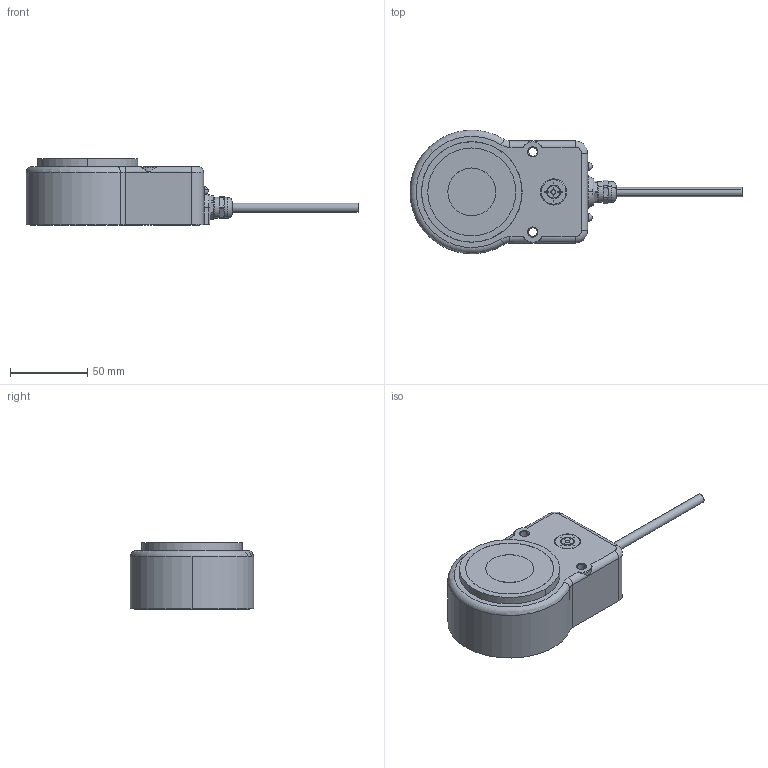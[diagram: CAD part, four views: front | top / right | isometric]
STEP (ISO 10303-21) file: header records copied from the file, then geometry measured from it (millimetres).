
FILE_DESCRIPTION (( 'STEP AP203' ), '1' );
FILE_NAME ('462-Switch MGL-1SS (step format).STEP', '2014-07-30T15:13:15', ( '' ), ( '' ), 'SwSTEP 2.0', 'SolidWorks 2013', '' );
FILE_SCHEMA (( 'CONFIG_CONTROL_DESIGN' ));
Length unit declared in the file: millimetre
Products named in the file (1): 462-Switch MGL-1SS (step format)
Bounding box: 215 x 79.84 x 43 mm (x, y, z)
Volume: 199184 mm3; surface area: 77572 mm2
Topology: 13 solids, 13 shells, 1005 faces, 2387 edges, 1402 vertices
Faces by surface type: cylinder 408, plane 289, torus 173, cone 84, sphere 28, bspline 23
Entity records: 29551 total; most frequent: CARTESIAN_POINT 6054, DIRECTION 5336, ORIENTED_EDGE 4682, EDGE_CURVE 2341, AXIS2_PLACEMENT_3D 2134, VERTEX_POINT 1398, CIRCLE 1151, EDGE_LOOP 1073
